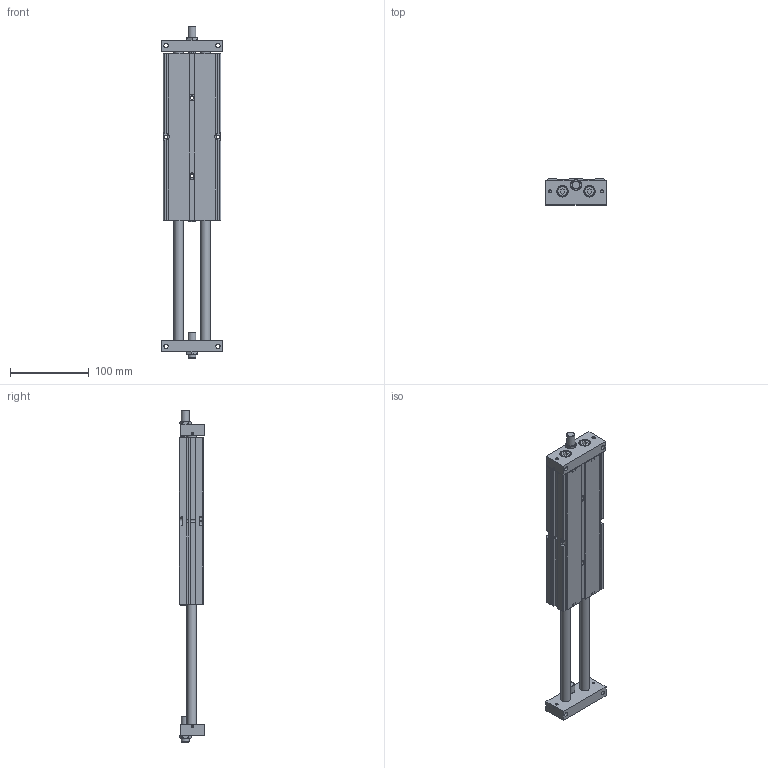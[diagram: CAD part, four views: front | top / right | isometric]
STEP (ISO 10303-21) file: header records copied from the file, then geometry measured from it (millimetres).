
FILE_DESCRIPTION((''),'2;1');
FILE_NAME('I:\3D電子目錄\氣缸\STU\STU\STU25\STU25x150.stp','2007-10-01T11:43:37',('Administrator'),(''),'Autodesk Inventor 11','Autodesk Inventor 11','');
FILE_SCHEMA(('AUTOMOTIVE_DESIGN { 1 0 10303 214 1 1 1 1 }'));
Length unit declared in the file: millimetre
Products named in the file (1): STU25
Bounding box: 77 x 33 x 422 mm (x, y, z)
Volume: 535371.7 mm3; surface area: 98912.6 mm2
Topology: 1 solids, 1 shells, 350 faces, 884 edges, 559 vertices
Faces by surface type: plane 163, cone 81, bspline 58, cylinder 44, torus 4
Full cylindrical faces by diameter (mm): 2.459 x2, 8 x2, 10 x4, 12 x2, 13 x4, 14 x4, 28 x2, 29.6 x2
Entity records: 11237 total; most frequent: CARTESIAN_POINT 3733, ORIENTED_EDGE 1484, DIRECTION 1462, EDGE_CURVE 742, AXIS2_PLACEMENT_3D 555, EDGE_LOOP 530, VERTEX_POINT 522, VECTOR 352
